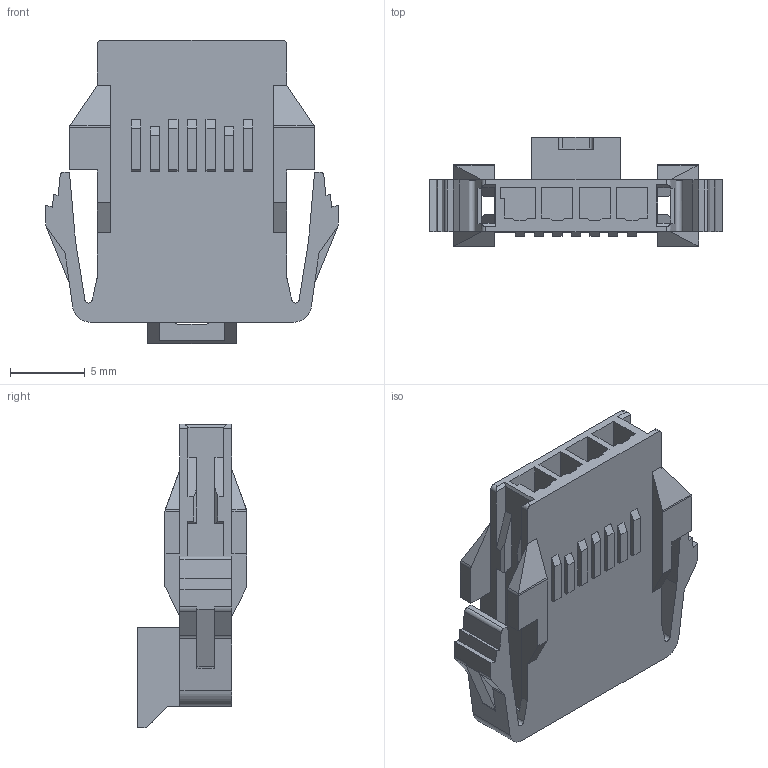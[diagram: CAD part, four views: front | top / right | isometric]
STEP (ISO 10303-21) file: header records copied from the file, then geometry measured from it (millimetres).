
FILE_DESCRIPTION((''),'2;1');
FILE_NAME('2002772204','2019-11-25T',('me'),(''),'PRO/ENGINEER BY PARAMETRIC TECHNOLOGY CORPORATION, 2016010','PRO/ENGINEER BY PARAMETRIC TECHNOLOGY CORPORATION, 2016010','');
FILE_SCHEMA(('CONFIG_CONTROL_DESIGN'));
Length unit declared in the file: millimetre
Products named in the file (1): 2002772204
Bounding box: 19.62 x 7.34 x 20.36 mm (x, y, z)
Volume: 752.3 mm3; surface area: 1603.3 mm2
Topology: 1 solids, 1 shells, 269 faces, 767 edges, 508 vertices
Faces by surface type: plane 239, cylinder 30
Entity records: 8691 total; most frequent: CARTESIAN_POINT 1587, ORIENTED_EDGE 1534, DIRECTION 1353, EDGE_CURVE 767, VECTOR 697, LINE 697, VERTEX_POINT 508, AXIS2_PLACEMENT_3D 328
